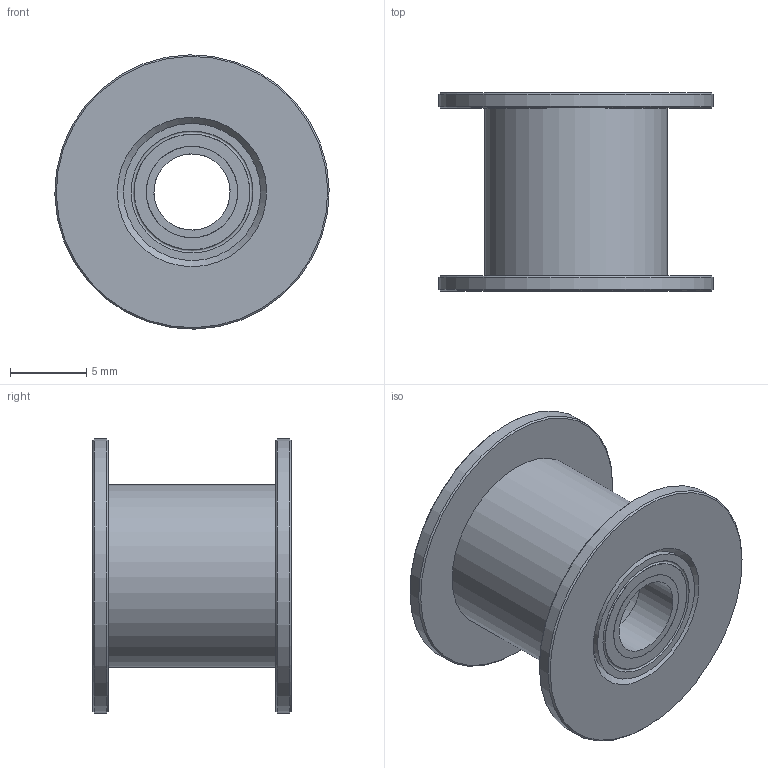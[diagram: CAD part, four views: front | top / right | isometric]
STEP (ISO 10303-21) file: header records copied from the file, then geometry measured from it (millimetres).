
FILE_DESCRIPTION(('FreeCAD Model'),'2;1');
FILE_NAME('Open CASCADE Shape Model','2021-05-05T08:43:58',('Author'),( ''),'Open CASCADE STEP processor 7.5','FreeCAD','Unknown');
FILE_SCHEMA(('AUTOMOTIVE_DESIGN { 1 0 10303 214 1 1 1 1 }'));
Length unit declared in the file: millimetre
Products named in the file (8): GT2 Idler Pulley, Configurable_20T W10 B5 Without T; Body, GT2 Idler Pulley, Configurable_20T W10 B5 Without T; Bearing Subassy, GT2 Idler Pulley, Configurable_5 mm Bore; Bearing Outer Ring, GT2 Idler Pulley, Configurable_5 mm Bore; Bearing Inner Ring, GT2 Idler Pulley, Configurable_5 mm Bore; Bearing Seal, GT2 Idler Pulley, Configurable_5 mm Bore; Bearing Ball, GT2 Idler Pulley, Configurable_1.4 mm; Bearing Subassy, GT2 Idler Pulley, Configurable_5 mm Bore001
Assembly tree (35 placements, depth 3):
  GT2 Idler Pulley, Configurable_20T W10 B5 Without T
    Body, GT2 Idler Pulley, Configurable_20T W10 B5 Without T
    Bearing Subassy, GT2 Idler Pulley, Configurable_5 mm Bore
      Bearing Outer Ring, GT2 Idler Pulley, Configurable_5 mm Bore
      Bearing Inner Ring, GT2 Idler Pulley, Configurable_5 mm Bore
      Bearing Seal, GT2 Idler Pulley, Configurable_5 mm Bore  x2
      Bearing Ball, GT2 Idler Pulley, Configurable_1.4 mm  x12
    Bearing Subassy, GT2 Idler Pulley, Configurable_5 mm Bore001
      Bearing Outer Ring, GT2 Idler Pulley, Configurable_5 mm Bore
      Bearing Inner Ring, GT2 Idler Pulley, Configurable_5 mm Bore
      Bearing Seal, GT2 Idler Pulley, Configurable_5 mm Bore  x2
      Bearing Ball, GT2 Idler Pulley, Configurable_1.4 mm  x12
Bounding box: 18 x 13 x 18 mm (x, y, z)
Volume: 1210.7 mm3; surface area: 2585.9 mm2
Topology: 33 solids, 33 shells, 90 faces, 193 edges, 125 vertices
Faces by surface type: cylinder 26, sphere 24, plane 22, torus 12, cone 6
Full cylindrical faces by diameter (mm): 5 x2, 6 x8, 8 x9, 9 x4, 12 x1, 18 x2
Entity records: 2546 total; most frequent: CARTESIAN_POINT 404, DIRECTION 359, ORIENTED_EDGE 134, PCURVE 134, DEFINITIONAL_REPRESENTATION 134, AXIS2_PLACEMENT_3D 116, LINE 108, VECTOR 108
